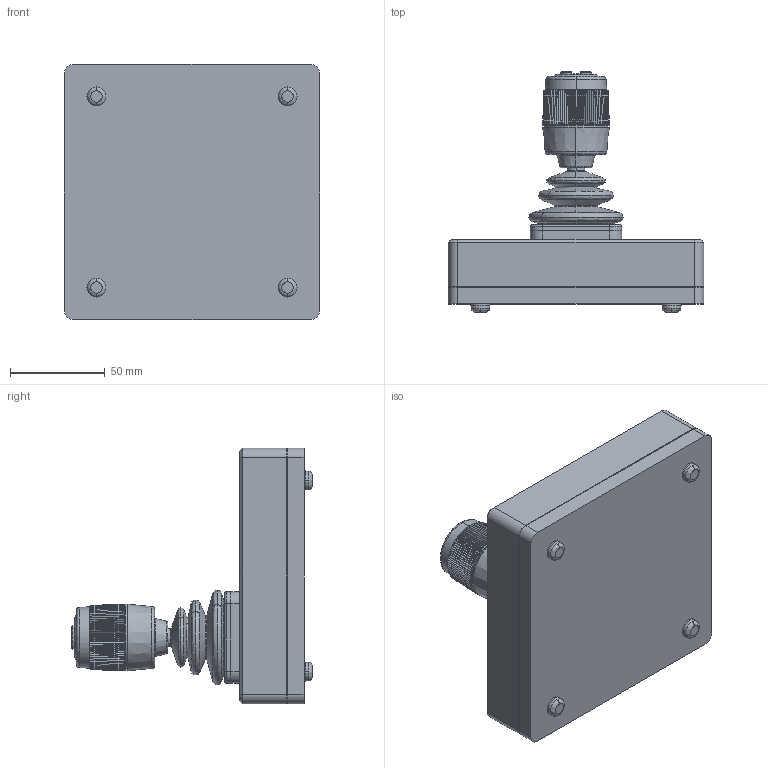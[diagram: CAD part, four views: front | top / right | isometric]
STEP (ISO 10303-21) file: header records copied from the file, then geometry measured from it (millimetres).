
FILE_DESCRIPTION (( 'STEP AP214' ), '1' );
FILE_NAME ('Joystick.STEP', '2021-05-27T11:24:15', ( '' ), ( '' ), 'SwSTEP 2.0', 'SolidWorks 2016', '' );
FILE_SCHEMA (( 'AUTOMOTIVE_DESIGN' ));
Length unit declared in the file: millimetre
Products named in the file (8): BPM-2; Joystick; TR FASTENINGS LTD-M2_5X12MM; HF-45-DropIn; Bottom; Connector; TR FASTENINGS LTD-M3X30MM; Top
Assembly tree (16 placements, depth 2):
  Joystick
    Bottom
    HF-45-DropIn
    Top
    Connector
    BPM-2  x4
    TR FASTENINGS LTD-M3X30MM  x4
    TR FASTENINGS LTD-M2_5X12MM  x4
Bounding box: 135 x 126.86 x 135 mm (x, y, z)
Volume: 570640.9 mm3; surface area: 150374.5 mm2
Topology: 29 solids, 29 shells, 1703 faces, 4321 edges, 2720 vertices
Faces by surface type: plane 778, cylinder 505, cone 243, bspline 177
Entity records: 48447 total; most frequent: CARTESIAN_POINT 14831, ORIENTED_EDGE 7228, DIRECTION 6690, EDGE_CURVE 3614, AXIS2_PLACEMENT_3D 2533, VERTEX_POINT 2306, VECTOR 1624, LINE 1624
